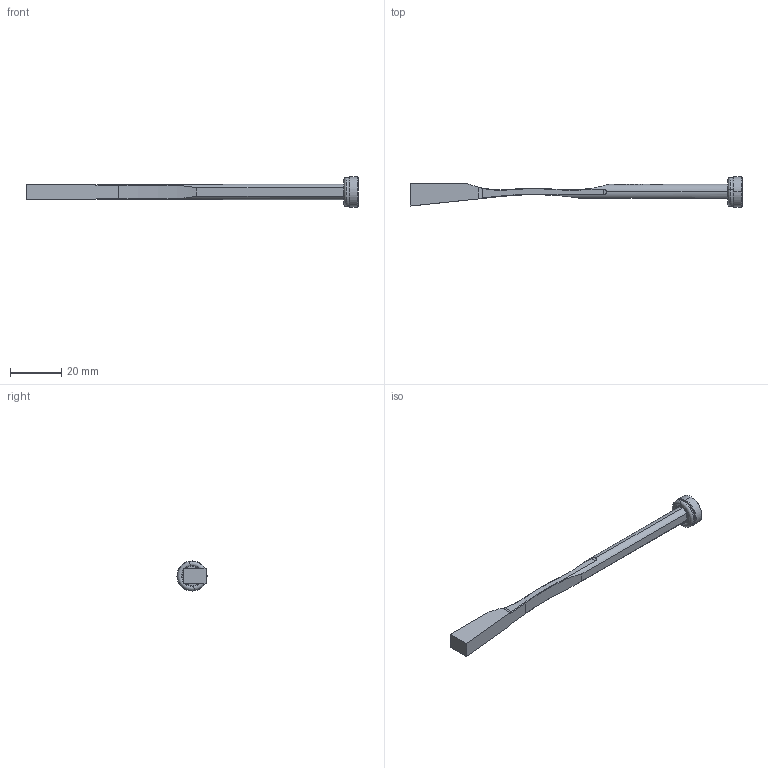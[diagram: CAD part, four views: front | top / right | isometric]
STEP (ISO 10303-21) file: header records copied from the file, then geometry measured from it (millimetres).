
FILE_DESCRIPTION (( 'STEP AP214' ), '1' );
FILE_NAME ('pw060622_injection.STEP', '2021-07-15T08:19:14', ( '' ), ( '' ), 'SwSTEP 2.0', 'SolidWorks 2019', '' );
FILE_SCHEMA (( 'AUTOMOTIVE_DESIGN' ));
Length unit declared in the file: millimetre
Products named in the file (5): 9PW060622 TANCADA; 9FP1205M4; pw060622_injection; 1DIN7991416_DIN 7991 - M4 x 16 --- 16C; 3JT7.5X2X11.5
Assembly tree (4 placements, depth 2):
  pw060622_injection
    9PW060622 TANCADA
    9FP1205M4
    1DIN7991416_DIN 7991 - M4 x 16 --- 16C
    3JT7.5X2X11.5
Bounding box: 130 x 11.8 x 11.8 mm (x, y, z)
Volume: 3686.7 mm3; surface area: 3852.3 mm2
Topology: 4 solids, 4 shells, 434 faces, 1156 edges, 754 vertices
Faces by surface type: bspline 248, plane 104, cylinder 50, cone 18, torus 14
Entity records: 24849 total; most frequent: CARTESIAN_POINT 16057, ORIENTED_EDGE 2304, EDGE_CURVE 1152, DIRECTION 824, B_SPLINE_CURVE_WITH_KNOTS 817, VERTEX_POINT 754, EDGE_LOOP 466, FACE_OUTER_BOUND 434
